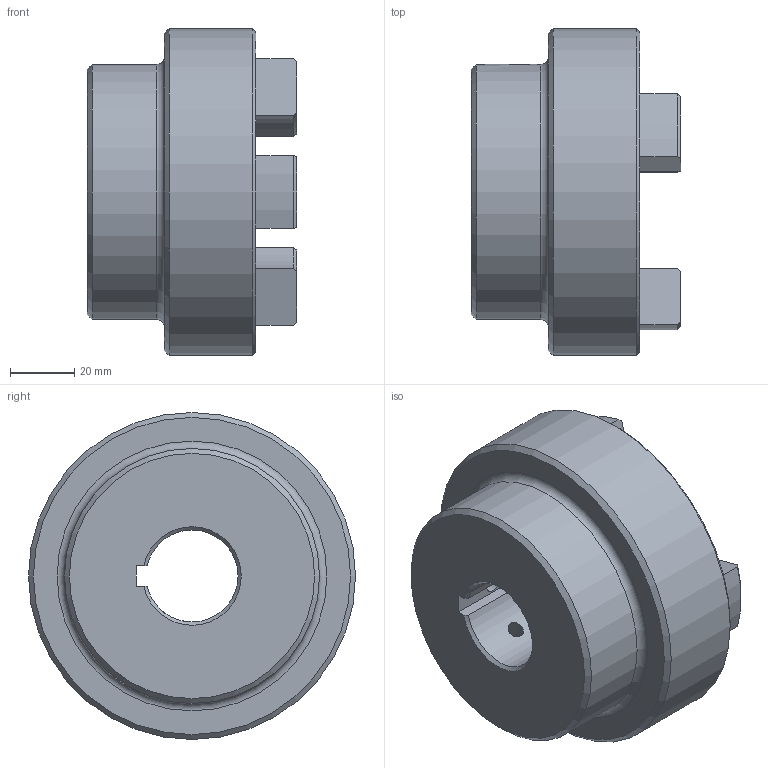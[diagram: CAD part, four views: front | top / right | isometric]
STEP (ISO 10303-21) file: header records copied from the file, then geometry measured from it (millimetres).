
FILE_DESCRIPTION (( 'STEP AP203' ), '1' );
FILE_NAME ('RC4.step', '2024-07-24T17:38:07', ( 'Adlan' ), ( '' ), 'SwSTEP 2.0', 'SolidWorks 2013', '' );
FILE_SCHEMA (( 'CONFIG_CONTROL_DESIGN' ));
Length unit declared in the file: inch
Products named in the file (1): RC4
Bounding box: 65.02 x 101.6 x 101.6 mm (x, y, z)
Volume: 254734 mm3; surface area: 41249.3 mm2
Topology: 1 solids, 1 shells, 67 faces, 168 edges, 105 vertices
Faces by surface type: cylinder 26, plane 16, torus 13, cone 12
Full cylindrical faces by diameter (mm): 5.105 x2, 79.248 x1, 101.6 x1
Entity records: 2243 total; most frequent: CARTESIAN_POINT 568, DIRECTION 354, ORIENTED_EDGE 310, EDGE_CURVE 155, AXIS2_PLACEMENT_3D 142, VERTEX_POINT 102, EDGE_LOOP 85, CIRCLE 74
